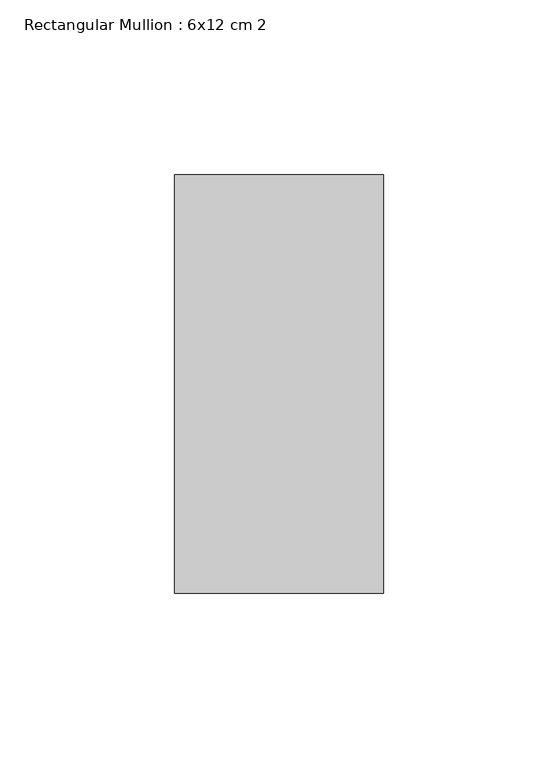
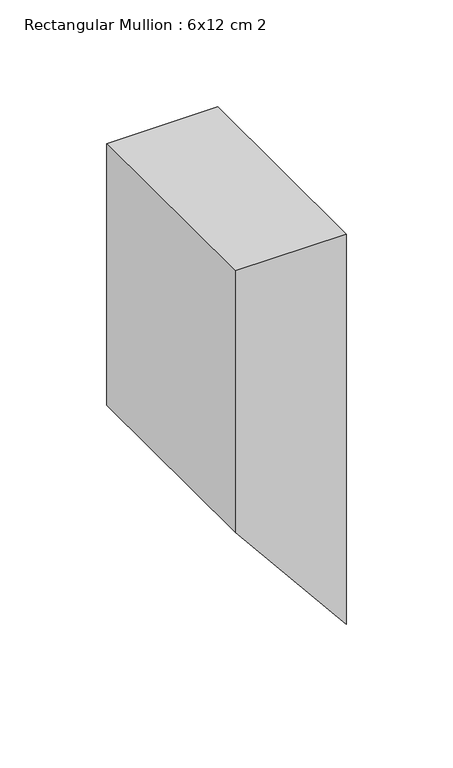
"""IFC4 building model written with IfcOpenShell, lengths in millimetres: member geometry, Rectangular Mullion : 6x12 cm 2."""

from ifc_helpers import new_model, si_unit, frame, origin, place, context, project, spatial, polyline, outline, extrude, source, transform, mapped, element, save


def rectangular_mullion_6x12_cm_2_bbca333d(model_context):
    return source(origin(), model_context, "Body", "SweptSolid", [
        extrude(outline(polyline([(0.0, 0.0), (0.0, -60.0), (-149.3907772, -60.0), (-222.9034959, 0.0), (0.0, 0.0)])), frame((0.0, 85.0, 0.0), z_axis=(0.0, 1.0, 0.0), x_axis=(0.0, 0.0, 1.0)), (0.0, 0.0, 1.0), 120.0),
    ])


if __name__ == "__main__":
    model = new_model("IFC4")
    model_context = context("Model", 3, world=origin())
    ifc_project = project(units=[si_unit("LENGTHUNIT", "METRE", prefix="MILLI")], contexts=[model_context])
    site = spatial("IfcSite", under=ifc_project)
    building = spatial("IfcBuilding", under=site)
    placement = place(None, origin())
    rectangular_mullion_6x12_cm_2_shape = rectangular_mullion_6x12_cm_2_bbca333d(model_context)
    element("IfcMember", 1, ObjectType="Rectangular Mullion : 6x12 cm 2", at=placement, inside=building, context=model_context, shape_type="MappedRepresentation", body=[
        mapped(rectangular_mullion_6x12_cm_2_shape, transform((0.0, 0.0, 0.0), x_axis=(1.0, 0.0, 0.0), y_axis=(0.0, 1.0, 0.0), z_axis=(0.0, 0.0, 1.0))),
    ])
    save(model, "model.ifc")
